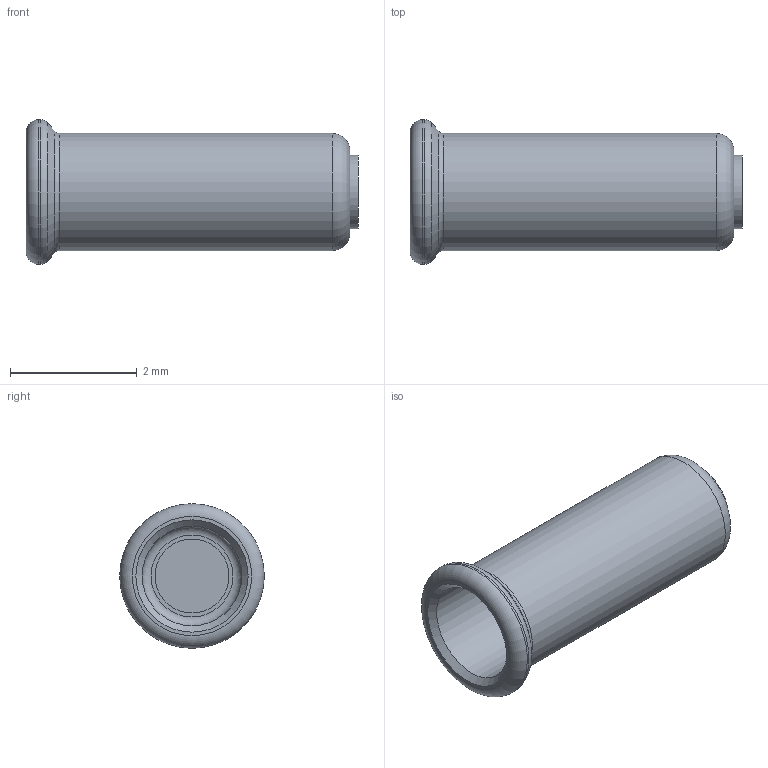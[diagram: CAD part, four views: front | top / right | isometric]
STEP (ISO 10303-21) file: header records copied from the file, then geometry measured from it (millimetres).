
FILE_DESCRIPTION(/* description */ (''),/* implementation_level */ '2;1');
FILE_NAME(/* name */ '\\Snap1\dwgs\Customer 3D Models\450\450-3716 Customer model.stp',/* time_stamp */ '2015-10-07T12:26:57+01:00',/* author */ ('Paul Karlsons'),/* organization */ (''),/* preprocessor_version */ 'ST-DEVELOPER v15.2',/* originating_system */ 'Autodesk Inventor 2014',/* authorisation */ '');
FILE_SCHEMA (('CONFIG_CONTROL_DESIGN'));
Length unit declared in the file: millimetre
Products named in the file (1): 450-3716 Customer model
Bounding box: 5.25 x 2.29 x 2.29 mm (x, y, z)
Volume: 4.5 mm3; surface area: 61.3 mm2
Topology: 1 solids, 1 shells, 17 faces, 29 edges, 17 vertices
Faces by surface type: plane 5, cylinder 5, torus 5, cone 2
Full cylindrical faces by diameter (mm): 1.168 x2, 1.574 x1, 1.854 x1, 2.286 x1
Entity records: 355 total; most frequent: DIRECTION 68, CARTESIAN_POINT 50, AXIS2_PLACEMENT_3D 34, EDGE_LOOP 32, ORIENTED_EDGE 32, FACE_BOUND 17, ADVANCED_FACE 17, CIRCLE 16
